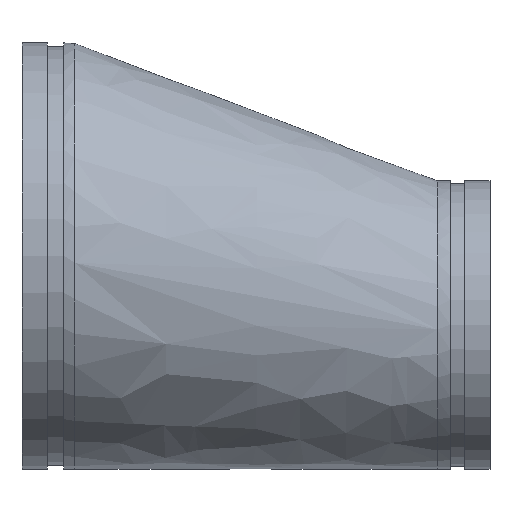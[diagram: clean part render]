
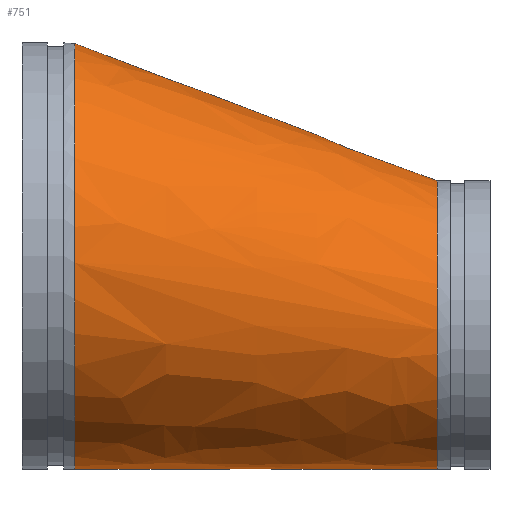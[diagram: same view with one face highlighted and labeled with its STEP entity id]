
A CAD part, top view. The second image highlights one B-rep face of the part: STEP entity #751.
In plain terms, the highlighted free-form (B-spline) face has degree [1, 2] with [2, 9] control points.
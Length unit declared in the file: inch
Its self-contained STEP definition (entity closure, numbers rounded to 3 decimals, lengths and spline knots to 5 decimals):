
#58=B_SPLINE_CURVE_WITH_KNOTS('',1,(#1409,#1410),.UNSPECIFIED.,.F.,.F.,
(2,2),(-1.76407,-0.00621),.UNSPECIFIED.);
#60=(
BOUNDED_SURFACE()
B_SPLINE_SURFACE(1,2,((#1387,#1388,#1389,#1390,#1391,#1392,#1393,#1394,
#1395),(#1396,#1397,#1398,#1399,#1400,#1401,#1402,#1403,#1404)),
 .UNSPECIFIED.,.F.,.T.,.F.)
B_SPLINE_SURFACE_WITH_KNOTS((2,2),(3,2,2,2,3),(-0.18662,1.88423),
(-3.14159,-1.5708,0.,1.5708,3.14159),
 .UNSPECIFIED.)
GEOMETRIC_REPRESENTATION_ITEM()
RATIONAL_B_SPLINE_SURFACE(((1.,0.707,1.,0.707,1.,
0.707,1.,0.707,1.),(1.,0.707,1.,0.707,
1.,0.707,1.,0.707,1.)))
REPRESENTATION_ITEM('')
SURFACE()
);
#128=FACE_OUTER_BOUND('',#160,.T.);
#160=EDGE_LOOP('',(#622,#623,#624,#625,#626,#627,#628));
#247=CIRCLE('',#870,4.3125);
#248=CIRCLE('',#871,6.375);
#249=CIRCLE('',#872,6.375);
#250=CIRCLE('',#873,4.3125);
#251=CIRCLE('',#874,4.3125);
#332=VERTEX_POINT('',#1405);
#333=VERTEX_POINT('',#1406);
#334=VERTEX_POINT('',#1408);
#335=VERTEX_POINT('',#1411);
#336=VERTEX_POINT('',#1414);
#436=EDGE_CURVE('',#332,#333,#247,.T.);
#437=EDGE_CURVE('',#333,#334,#58,.T.);
#438=EDGE_CURVE('',#334,#335,#248,.T.);
#439=EDGE_CURVE('',#335,#334,#249,.T.);
#440=EDGE_CURVE('',#333,#336,#250,.T.);
#441=EDGE_CURVE('',#336,#332,#251,.T.);
#622=ORIENTED_EDGE('',*,*,#436,.T.);
#623=ORIENTED_EDGE('',*,*,#437,.T.);
#624=ORIENTED_EDGE('',*,*,#438,.T.);
#625=ORIENTED_EDGE('',*,*,#439,.T.);
#626=ORIENTED_EDGE('',*,*,#437,.F.);
#627=ORIENTED_EDGE('',*,*,#440,.T.);
#628=ORIENTED_EDGE('',*,*,#441,.T.);
#751=ADVANCED_FACE('',(#128),#60,.F.);
#870=AXIS2_PLACEMENT_3D('',#1407,#1104,#1105);
#871=AXIS2_PLACEMENT_3D('',#1412,#1106,#1107);
#872=AXIS2_PLACEMENT_3D('',#1413,#1108,#1109);
#873=AXIS2_PLACEMENT_3D('',#1415,#1110,#1111);
#874=AXIS2_PLACEMENT_3D('',#1416,#1112,#1113);
#1104=DIRECTION('center_axis',(-1.,0.,0.));
#1105=DIRECTION('ref_axis',(0.,-1.,0.));
#1106=DIRECTION('center_axis',(1.,0.,0.));
#1107=DIRECTION('ref_axis',(0.,1.,0.));
#1108=DIRECTION('center_axis',(1.,0.,0.));
#1109=DIRECTION('ref_axis',(0.,1.,0.));
#1110=DIRECTION('center_axis',(-1.,0.,0.));
#1111=DIRECTION('ref_axis',(0.,-1.,0.));
#1112=DIRECTION('center_axis',(-1.,0.,0.));
#1113=DIRECTION('ref_axis',(0.,-1.,0.));
#1387=CARTESIAN_POINT('Ctrl Pts',(0.39086,0.00316,
6.59748));
#1388=CARTESIAN_POINT('Ctrl Pts',(-0.78169,-6.375,
6.59748));
#1389=CARTESIAN_POINT('Ctrl Pts',(-0.78169,-6.375,
0.));
#1390=CARTESIAN_POINT('Ctrl Pts',(-0.78169,-6.375,
-6.59748));
#1391=CARTESIAN_POINT('Ctrl Pts',(0.39086,0.00316,
-6.59748));
#1392=CARTESIAN_POINT('Ctrl Pts',(1.5634,6.38132,-6.59748));
#1393=CARTESIAN_POINT('Ctrl Pts',(1.5634,6.38132,0.));
#1394=CARTESIAN_POINT('Ctrl Pts',(1.5634,6.38132,6.59748));
#1395=CARTESIAN_POINT('Ctrl Pts',(0.39086,0.00316,
6.59748));
#1396=CARTESIAN_POINT('Ctrl Pts',(13.16096,-2.34446,4.16914));
#1397=CARTESIAN_POINT('Ctrl Pts',(12.42,-6.375,4.16914));
#1398=CARTESIAN_POINT('Ctrl Pts',(12.42,-6.375,0.));
#1399=CARTESIAN_POINT('Ctrl Pts',(12.42,-6.375,-4.16914));
#1400=CARTESIAN_POINT('Ctrl Pts',(13.16096,-2.34446,-4.16914));
#1401=CARTESIAN_POINT('Ctrl Pts',(13.90193,1.68608,-4.16914));
#1402=CARTESIAN_POINT('Ctrl Pts',(13.90193,1.68608,0.));
#1403=CARTESIAN_POINT('Ctrl Pts',(13.90193,1.68608,4.16914));
#1404=CARTESIAN_POINT('Ctrl Pts',(13.16096,-2.34446,4.16914));
#1405=CARTESIAN_POINT('',(12.42,-6.375,0.));
#1406=CARTESIAN_POINT('',(12.42,-2.20825,4.31004));
#1407=CARTESIAN_POINT('Origin',(12.42,-2.0625,0.));
#1408=CARTESIAN_POINT('',(1.58,-0.21545,6.37136));
#1409=CARTESIAN_POINT('Ctrl Pts',(12.42,-2.20825,4.31004));
#1410=CARTESIAN_POINT('Ctrl Pts',(1.58,-0.21545,6.37136));
#1411=CARTESIAN_POINT('',(1.58,-6.375,0.));
#1412=CARTESIAN_POINT('Origin',(1.58,0.,0.));
#1413=CARTESIAN_POINT('Origin',(1.58,0.,0.));
#1414=CARTESIAN_POINT('',(12.42,2.25,0.));
#1415=CARTESIAN_POINT('Origin',(12.42,-2.0625,0.));
#1416=CARTESIAN_POINT('Origin',(12.42,-2.0625,0.));
